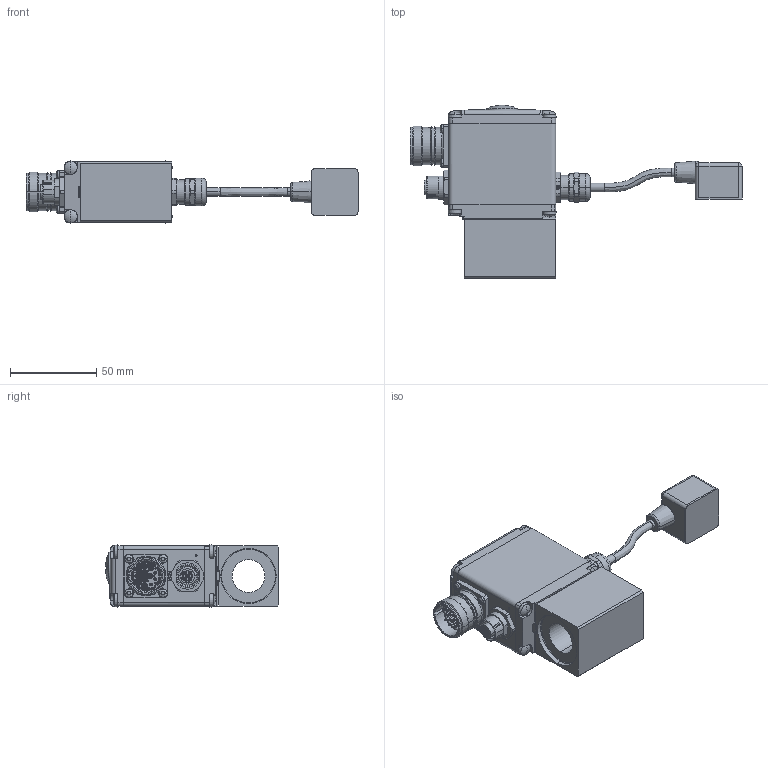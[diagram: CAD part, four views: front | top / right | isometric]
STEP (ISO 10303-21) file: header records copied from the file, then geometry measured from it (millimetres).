
FILE_DESCRIPTION (( 'STEP AP214' ), '1' );
FILE_NAME ('ME35_19x50-...A.R.STEP', '2014-04-03T08:49:21', ( '' ), ( '' ), 'SwSTEP 2.0', 'SolidWorks 2012', '' );
FILE_SCHEMA (( 'AUTOMOTIVE_DESIGN' ));
Length unit declared in the file: millimetre
Products named in the file (1): ME35_19x50-...A.R
Bounding box: 192.1 x 100.39 x 35.9 mm (x, y, z)
Volume: 144347.5 mm3; surface area: 54909.3 mm2
Topology: 4 solids, 4 shells, 3291 faces, 9197 edges, 5989 vertices
Faces by surface type: plane 1926, cylinder 798, torus 221, cone 181, bspline 92, sphere 73
Entity records: 116669 total; most frequent: CARTESIAN_POINT 26544, ORIENTED_EDGE 18264, DIRECTION 16703, EDGE_CURVE 9132, VERTEX_POINT 5965, LINE 5957, VECTOR 5957, AXIS2_PLACEMENT_3D 5373
